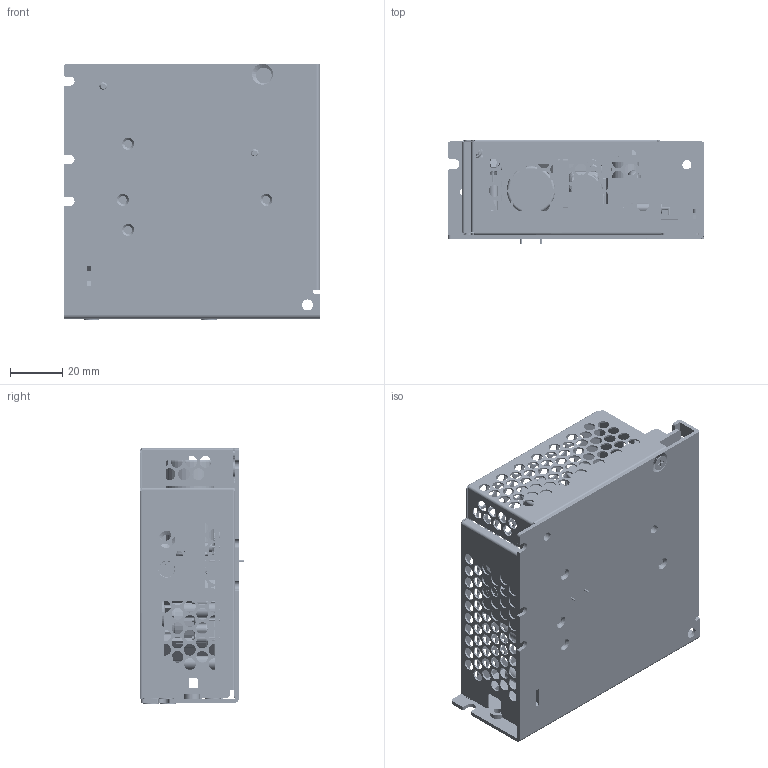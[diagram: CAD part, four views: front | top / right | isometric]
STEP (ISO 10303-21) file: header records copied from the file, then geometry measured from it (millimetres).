
FILE_DESCRIPTION((''),'2;1');
FILE_NAME('NEW_50W_ASM','2014-08-11T',('LEON.YEH'),(''),'PRO/ENGINEER BY PARAMETRIC TECHNOLOGY CORPORATION, 2010280','PRO/ENGINEER BY PARAMETRIC TECHNOLOGY CORPORATION, 2010280','');
FILE_SCHEMA(('CONFIG_CONTROL_DESIGN'));
Products named in the file (37): 15V_50W_PWB; CONN_5P_; SCREW-CON_; CONN_ASS5PIN_ASM; LED_HOLDER; VR1_; LEG1_; VR_LEG__ASM; 3103000500_FLAT_L5_1; HSK; HSK_PIN1; HSK_PIN2; HSK_ASM_ASM; 242017601306_Q1; 3105325100-L6; 3105320100-L8; 3110150400__W___ANY; DIODE_RESET__W___ANY; 200111620071_BD1; 2875187900_FL1; 0910800216_NTC1; F1; NEW_COVER; 330_CHASSIS_15V; STUD_6_32_L7_; 00; CHASSIS_ASM_15V_ASM; 50W_C1; CY1; C7; INSULATOR; CORE-RM10_1; 3172980001_17; 3132023800_1; ASSY-RM10-1205_ASM_6_ASM; ASSY-RM10-082312_ASM; NEW_50W_ASM
Assembly tree (54 placements, depth 4):
  NEW_50W_ASM
    15V_50W_PWB
    CONN_ASS5PIN_ASM
      CONN_5P_
      SCREW-CON_  x5
    LED_HOLDER
    VR_LEG__ASM
      VR1_
      LEG1_  x3
    3103000500_FLAT_L5_1  x2
    HSK_ASM_ASM
      HSK
      HSK_PIN1
      HSK_PIN2
    242017601306_Q1  x2
    3105325100-L6  x2
    3105320100-L8  x2
    3110150400__W___ANY  x2
    DIODE_RESET__W___ANY
    200111620071_BD1
    2875187900_FL1
    0910800216_NTC1
    F1
    NEW_COVER
    CHASSIS_ASM_15V_ASM
      330_CHASSIS_15V
      STUD_6_32_L7_  x2
      00  x2
    50W_C1
    CY1  x5
    C7
    INSULATOR
    ASSY-RM10-082312_ASM
      ASSY-RM10-1205_ASM_6_ASM
        CORE-RM10_1  x2
        3172980001_17
        3132023800_1
Bounding box: 98 x 40.15 x 98 mm (x, y, z)
Volume: 87893.3 mm3; surface area: 119292.9 mm2
Topology: 56 solids, 56 shells, 3959 faces, 9678 edges, 5845 vertices
Faces by surface type: cylinder 1923, plane 1124, torus 662, bspline 110, cone 86, sphere 34, revolution 20
Entity records: 118464 total; most frequent: CARTESIAN_POINT 32414, DIRECTION 18607, ORIENTED_EDGE 17302, EDGE_CURVE 8651, AXIS2_PLACEMENT_3D 7496, VERTEX_POINT 5244, EDGE_LOOP 4367, CIRCLE 3914
